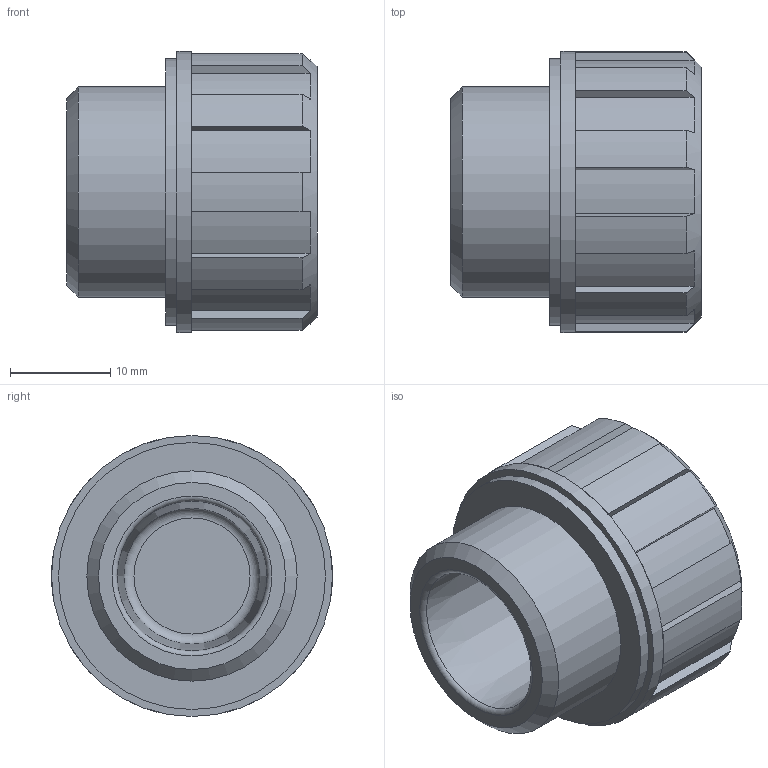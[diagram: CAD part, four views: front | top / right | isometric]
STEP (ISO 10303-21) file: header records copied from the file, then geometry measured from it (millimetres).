
FILE_DESCRIPTION( ( 'STEP AP203' ), '1' );
FILE_NAME( 'C:/Temp/Ganter_Step_05_03_2020/data/3_5/gn548_1/Plug GN 548.1-G1_2-A.stp', '2020-03-12T13:35:43', ( 'License CC BY-ND 4.0' ), ( 'CADENAS' ), ' ', 'PARTsolutions', ' ' );
FILE_SCHEMA( ( 'CONFIG_CONTROL_DESIGN' ) );
Length unit declared in the file: millimetre
Products named in the file (1): _Plug GN 548.1-G1/2-A
Bounding box: 25 x 28 x 28 mm (x, y, z)
Volume: 8740.2 mm3; surface area: 4246.1 mm2
Topology: 1 solids, 1 shells, 56 faces, 145 edges, 96 vertices
Faces by surface type: plane 27, cylinder 24, cone 3, torus 2
Full cylindrical faces by diameter (mm): 20.955 x1, 25.455 x1, 26.6 x1, 28 x1
Entity records: 1728 total; most frequent: CARTESIAN_POINT 345, DIRECTION 282, ORIENTED_EDGE 268, EDGE_CURVE 134, AXIS2_PLACEMENT_3D 111, VERTEX_POINT 94, EDGE_LOOP 70, FACE_OUTER_BOUND 62
